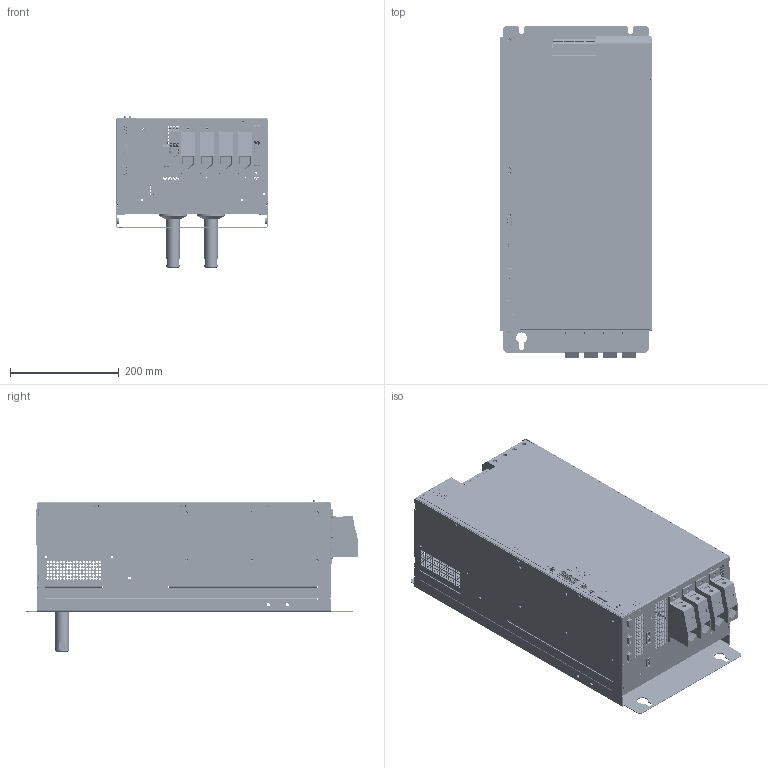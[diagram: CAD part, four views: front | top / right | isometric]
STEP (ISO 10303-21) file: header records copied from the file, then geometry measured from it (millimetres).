
FILE_DESCRIPTION(/* description */ (''),/* implementation_level */ '2;1');
FILE_NAME(/* name */ 'CB06134-001',/* time_stamp */ '2010-05-12T11:58:18+02:00',/* author */ (''),/* organization */ (''),/* preprocessor_version */ 'ST-DEVELOPER v9',/* originating_system */ 'UGS - NX 4.0',/* authorisation */ '');
FILE_SCHEMA (('AUTOMOTIVE_DESIGN { 1 0 10303 214 1 1 1 1 }'));
Products named in the file (1): sdumD643as45
Bounding box: 280 x 610 x 277.8 mm (x, y, z)
Volume: 4981746 mm3; surface area: 2297476.7 mm2
Topology: 39 solids, 39 shells, 10604 faces, 27983 edges, 18341 vertices
Faces by surface type: plane 6840, bspline 2218, cylinder 1325, cone 204, torus 17
Entity records: 419263 total; most frequent: CARTESIAN_POINT 110403, ORIENTED_EDGE 55922, DIRECTION 43000, EDGE_CURVE 27961, LINE 20516, VECTOR 20516, VERTEX_POINT 18341, EDGE_LOOP 13320
